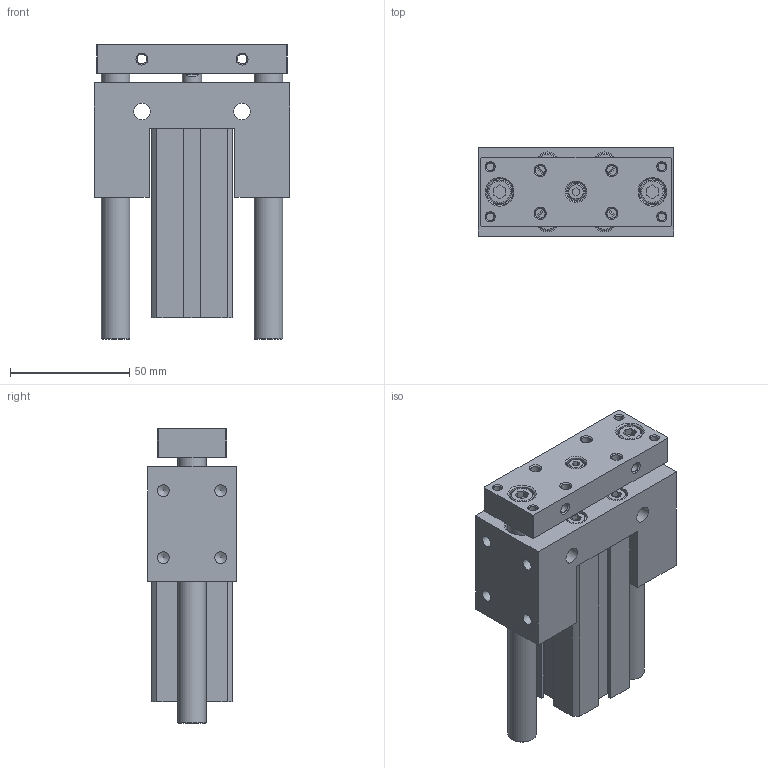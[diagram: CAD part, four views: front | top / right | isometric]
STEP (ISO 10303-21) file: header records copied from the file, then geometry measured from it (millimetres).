
FILE_DESCRIPTION((''),'2;1');
FILE_NAME('I:\3D電子目錄\氣缸\JCB\JCB\JCB20\JCB20x60.stp','2007-08-21T18:19:00',('Administrator'),(''),'Autodesk Inventor 11','Autodesk Inventor 11','');
FILE_SCHEMA(('AUTOMOTIVE_DESIGN { 1 0 10303 214 1 1 1 1 }'));
Length unit declared in the file: millimetre
Products named in the file (1): JCB20
Bounding box: 82 x 37 x 123.5 mm (x, y, z)
Volume: 211508.8 mm3; surface area: 67256.2 mm2
Topology: 5 solids, 5 shells, 293 faces, 643 edges, 415 vertices
Faces by surface type: plane 150, bspline 53, cylinder 45, cone 37, torus 8
Full cylindrical faces by diameter (mm): 1.5 x2, 4.3 x4, 4.917 x4, 7 x9, 8 x1, 8.5 x4, 9 x1, 10 x2, 12 x2, 13 x2, 14 x2, 22 x4, 23.2 x2
Entity records: 7875 total; most frequent: CARTESIAN_POINT 1985, DIRECTION 1184, ORIENTED_EDGE 992, EDGE_LOOP 504, EDGE_CURVE 496, AXIS2_PLACEMENT_3D 447, VERTEX_POINT 394, FACE_OUTER_BOUND 293
